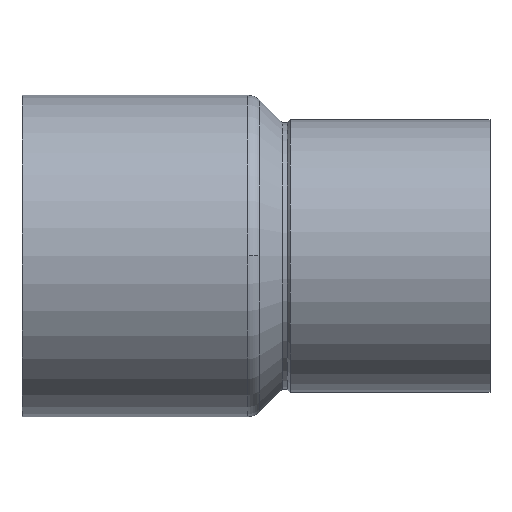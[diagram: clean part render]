
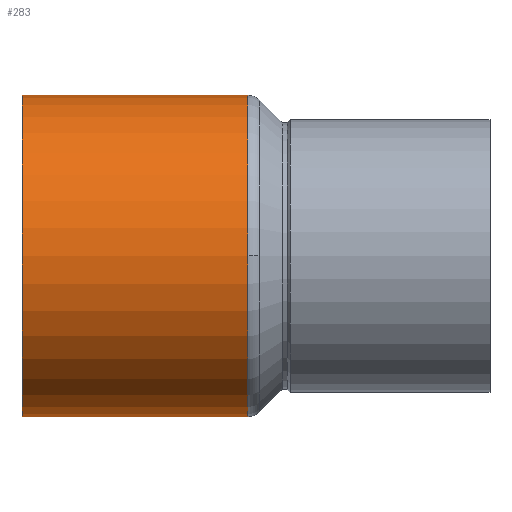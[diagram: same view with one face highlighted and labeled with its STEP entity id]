
A CAD part, top view. The second image highlights one B-rep face of the part: STEP entity #283.
In plain terms, the highlighted cylindrical face has radius 9.955 mm (diameter 19.91 mm), a partial arc.
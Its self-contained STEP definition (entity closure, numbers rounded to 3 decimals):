
#207=CARTESIAN_POINT('',(14.0,9.955,0.0));
#208=VERTEX_POINT('',#207);
#216=CARTESIAN_POINT('',(14.0,0.,9.955));
#217=VERTEX_POINT('',#216);
#218=CARTESIAN_POINT('',(14.0,0.0,0.0));
#219=DIRECTION('',(1.0,0.0,0.0));
#220=DIRECTION('',(0.0,1.0,0.0));
#221=AXIS2_PLACEMENT_3D('',#218,#219,#220);
#222=CIRCLE('',#221,9.955);
#223=EDGE_CURVE('',#208,#217,#222,.T.);
#243=CARTESIAN_POINT('',(7.0,0.0,0.0));
#244=DIRECTION('',(1.0,0.0,0.0));
#245=DIRECTION('',(0.0,1.0,0.0));
#246=AXIS2_PLACEMENT_3D('',#243,#244,#245);
#247=CYLINDRICAL_SURFACE('',#246,9.955);
#248=CARTESIAN_POINT('',(0.0,9.955,0.0));
#249=VERTEX_POINT('',#248);
#250=CARTESIAN_POINT('',(0.0,9.955,0.0));
#251=DIRECTION('',(1.0,0.0,0.0));
#252=VECTOR('',#251,14.0);
#253=LINE('',#250,#252);
#254=EDGE_CURVE('',#249,#208,#253,.T.);
#255=ORIENTED_EDGE('',*,*,#254,.F.);
#256=CARTESIAN_POINT('',(0.0,-9.955,0.));
#257=VERTEX_POINT('',#256);
#258=CARTESIAN_POINT('',(0.0,0.0,0.0));
#259=DIRECTION('',(1.0,0.0,0.0));
#260=DIRECTION('',(0.0,1.0,0.0));
#261=AXIS2_PLACEMENT_3D('',#258,#259,#260);
#262=CIRCLE('',#261,9.955);
#263=EDGE_CURVE('',#249,#257,#262,.T.);
#264=ORIENTED_EDGE('',*,*,#263,.T.);
#265=CARTESIAN_POINT('',(14.0,-9.955,0.));
#266=VERTEX_POINT('',#265);
#267=CARTESIAN_POINT('',(14.0,-9.955,0.));
#268=DIRECTION('',(-1.0,0.0,0.0));
#269=VECTOR('',#268,14.0);
#270=LINE('',#267,#269);
#271=EDGE_CURVE('',#266,#257,#270,.T.);
#272=ORIENTED_EDGE('',*,*,#271,.F.);
#273=CARTESIAN_POINT('',(14.0,0.0,0.0));
#274=DIRECTION('',(1.0,0.0,0.0));
#275=DIRECTION('',(0.0,1.0,0.0));
#276=AXIS2_PLACEMENT_3D('',#273,#274,#275);
#277=CIRCLE('',#276,9.955);
#278=EDGE_CURVE('',#217,#266,#277,.T.);
#279=ORIENTED_EDGE('',*,*,#278,.F.);
#280=ORIENTED_EDGE('',*,*,#223,.F.);
#281=EDGE_LOOP('',(#255,#264,#272,#279,#280));
#282=FACE_OUTER_BOUND('',#281,.T.);
#283=ADVANCED_FACE('',(#282),#247,.T.);
